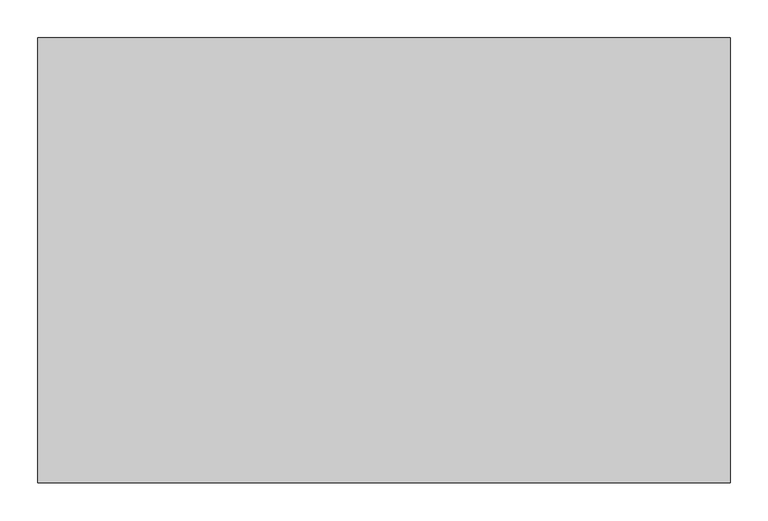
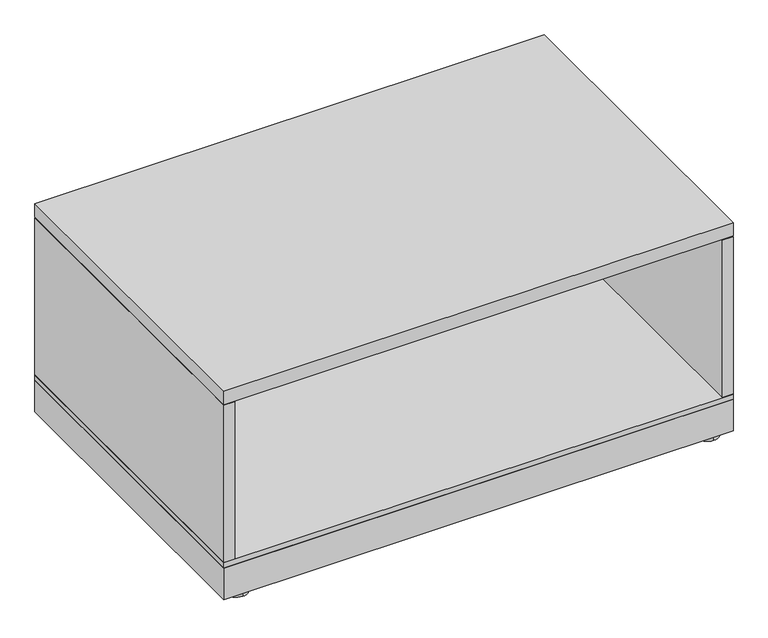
"""IFC4 building model written with IfcOpenShell, lengths in millimetres: furniture geometry, Steelcase - Universal Storage - Lateral File - 1 High - Flush Steel : Open - 23 1/8D x 36W."""

from ifc_helpers import new_model, si_unit, point, frame, frame_2d, origin, origin_with_axes, place, context, project, spatial, polyline, circle_curve, trimmed, segment, composite_curve, outline, extrude, source, transform, mapped, element, save


def furniture_82ac1f1b(model_context):
    return source(origin(), model_context, "Body", "SweptSolid", [
        extrude(outline(polyline([(914.4, 587.502), (914.4, 0.0), (0.0, 0.0), (0.0, 587.502), (914.4, 587.502)])), frame((0.0, 0.0, 6.3500002), z_axis=(0.0, 0.0, 1.0), x_axis=(1.0, 0.0, 0.0)), (0.0, 0.0, 1.0), 59.6899998),
        extrude(outline(composite_curve([segment(trimmed(circle_curve(frame_2d((879.7290058, 565.1653666)), 20.32), [point((879.7290058, 544.8453666))], [point((879.7290058, 585.4853666))], False, "CARTESIAN"), True, "CONTINUOUS"), segment(trimmed(circle_curve(frame_2d((879.7290058, 565.1653666)), 20.32), [point((879.7290058, 585.4853666))], [point((879.7290058, 544.8453666))], False, "CARTESIAN"), True, "CONTINUOUS")], self_intersect=False)), origin_with_axes(), (0.0, 0.0, 1.0), 6.3500002),
        extrude(outline(composite_curve([segment(trimmed(circle_curve(frame_2d((879.7290058, 20.7491455)), 20.32), [point((879.7290058, 0.4291455))], [point((879.7290058, 41.0691455))], False, "CARTESIAN"), True, "CONTINUOUS"), segment(trimmed(circle_curve(frame_2d((879.7290058, 20.7491455)), 20.32), [point((879.7290058, 41.0691455))], [point((879.7290058, 0.4291455))], False, "CARTESIAN"), True, "CONTINUOUS")], self_intersect=False)), origin_with_axes(), (0.0, 0.0, 1.0), 6.3500002),
        extrude(outline(composite_curve([segment(trimmed(circle_curve(frame_2d((34.29, 565.1653666)), 20.32), [point((34.29, 585.4853666))], [point((34.29, 544.8453666))], False, "CARTESIAN"), True, "CONTINUOUS"), segment(trimmed(circle_curve(frame_2d((34.29, 565.1653666)), 20.32), [point((34.29, 544.8453666))], [point((34.29, 585.4853666))], False, "CARTESIAN"), True, "CONTINUOUS")], self_intersect=False)), origin_with_axes(), (0.0, 0.0, 1.0), 6.3500002),
        extrude(outline(composite_curve([segment(trimmed(circle_curve(frame_2d((34.29, 20.7491455)), 20.32), [point((34.29, 41.0691455))], [point((34.29, 0.4291455))], False, "CARTESIAN"), True, "CONTINUOUS"), segment(trimmed(circle_curve(frame_2d((34.29, 20.7491455)), 20.32), [point((34.29, 0.4291455))], [point((34.29, 41.0691455))], False, "CARTESIAN"), True, "CONTINUOUS")], self_intersect=False)), origin_with_axes(), (0.0, 0.0, 1.0), 6.3500002),
        extrude(outline(polyline([(914.4, 0.0), (0.0, 0.0), (0.0, 587.502), (914.4, 587.502), (914.4, 0.0)])), frame((0.0, 0.0, 376.3010136), z_axis=(0.0, 0.0, 1.0), x_axis=(1.0, 0.0, 0.0)), (0.0, 0.0, 1.0), 25.3999758),
        extrude(outline(polyline([(914.4, 0.0), (0.0, 0.0), (0.0, 587.502), (914.4, 587.502), (914.4, 0.0)])), frame((0.0, 0.0, 66.04), z_axis=(0.0, 0.0, 1.0), x_axis=(1.0, 0.0, 0.0)), (0.0, 0.0, 1.0), 10.16),
        extrude(outline(polyline([(0.0, 587.502), (914.4, 587.502), (914.4, 0.0), (894.8419641, 0.0), (894.8419641, 586.74), (19.558, 586.74), (19.558, 0.0), (0.0, 0.0), (0.0, 587.502)])), frame((0.0, 0.0, 76.2), z_axis=(0.0, 0.0, 1.0), x_axis=(1.0, 0.0, 0.0)), (0.0, 0.0, 1.0), 298.577),
    ])


if __name__ == "__main__":
    model = new_model("IFC4")
    model_context = context("Model", 3, world=origin())
    ifc_project = project(units=[si_unit("LENGTHUNIT", "METRE", prefix="MILLI")], contexts=[model_context])
    site = spatial("IfcSite", under=ifc_project)
    building = spatial("IfcBuilding", under=site)
    placement = place(None, origin())
    furniture_shape = furniture_82ac1f1b(model_context)
    element("IfcFurniture", 1, ObjectType="Steelcase - Universal Storage - Lateral File - 1 High - Flush Steel : Open - 23 1/8D x 36W", at=placement, inside=building, context=model_context, shape_type="MappedRepresentation", body=[
        mapped(furniture_shape, transform((0.0, 0.0, 0.0), x_axis=(1.0, 0.0, 0.0), y_axis=(0.0, 1.0, 0.0), z_axis=(0.0, 0.0, 1.0))),
    ])
    save(model, "model.ifc")
